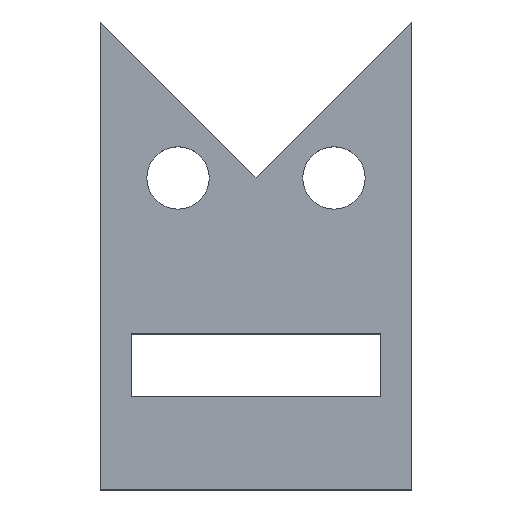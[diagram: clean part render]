
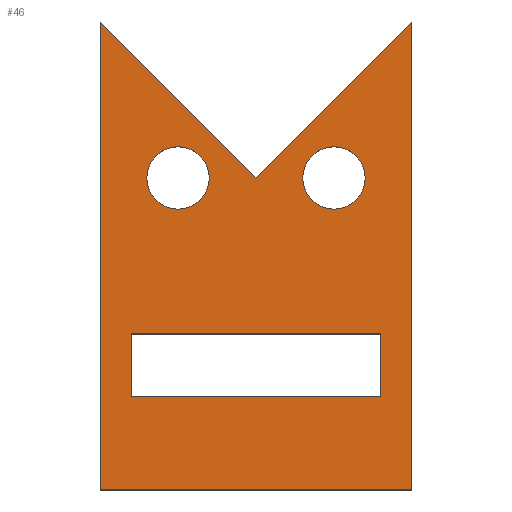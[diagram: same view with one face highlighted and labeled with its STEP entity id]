
A CAD part, top view. The second image highlights one B-rep face of the part: STEP entity #46.
In plain terms, the highlighted planar face has unit normal (0, 0, 1).
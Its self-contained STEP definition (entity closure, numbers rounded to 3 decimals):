
#29=FACE_BOUND('',#184,.T.);
#31=FACE_BOUND('',#188,.T.);
#33=FACE_BOUND('',#190,.T.);
#37=CIRCLE('',#78,1.);
#39=CIRCLE('',#80,1.);
#46=ADVANCED_FACE('',(#61,#29,#31,#33),#91,.T.);
#61=FACE_OUTER_BOUND('',#175,.T.);
#76=AXIS2_PLACEMENT_3D('',#386,#323,#324);
#78=AXIS2_PLACEMENT_3D('',#395,#327,#328);
#80=AXIS2_PLACEMENT_3D('',#401,#333,#334);
#91=PLANE('',#76);
#101=ORIENTED_EDGE('',*,*,#197,.T.);
#107=ORIENTED_EDGE('',*,*,#199,.T.);
#113=ORIENTED_EDGE('',*,*,#201,.T.);
#119=ORIENTED_EDGE('',*,*,#203,.T.);
#125=ORIENTED_EDGE('',*,*,#205,.T.);
#135=ORIENTED_EDGE('',*,*,#212,.F.);
#136=ORIENTED_EDGE('',*,*,#213,.F.);
#147=ORIENTED_EDGE('',*,*,#218,.F.);
#148=ORIENTED_EDGE('',*,*,#219,.F.);
#155=ORIENTED_EDGE('',*,*,#224,.T.);
#161=ORIENTED_EDGE('',*,*,#226,.T.);
#167=ORIENTED_EDGE('',*,*,#228,.T.);
#173=ORIENTED_EDGE('',*,*,#230,.T.);
#175=EDGE_LOOP('',(#101,#107,#113,#119,#125));
#184=EDGE_LOOP('',(#135,#136));
#188=EDGE_LOOP('',(#147,#148));
#190=EDGE_LOOP('',(#155,#161,#167,#173));
#197=EDGE_CURVE('',#359,#361,#236,.T.);
#199=EDGE_CURVE('',#361,#363,#238,.T.);
#201=EDGE_CURVE('',#363,#365,#240,.T.);
#203=EDGE_CURVE('',#365,#367,#242,.T.);
#205=EDGE_CURVE('',#367,#359,#244,.T.);
#212=EDGE_CURVE('',#369,#370,#37,.T.);
#213=EDGE_CURVE('',#370,#369,#37,.T.);
#218=EDGE_CURVE('',#373,#374,#39,.T.);
#219=EDGE_CURVE('',#374,#373,#39,.T.);
#224=EDGE_CURVE('',#377,#379,#255,.T.);
#226=EDGE_CURVE('',#379,#381,#257,.T.);
#228=EDGE_CURVE('',#381,#383,#259,.T.);
#230=EDGE_CURVE('',#383,#377,#261,.T.);
#236=LINE('',#385,#267);
#238=LINE('',#386,#269);
#240=LINE('',#387,#271);
#242=LINE('',#388,#273);
#244=LINE('',#389,#275);
#255=LINE('',#407,#286);
#257=LINE('',#408,#288);
#259=LINE('',#409,#290);
#261=LINE('',#410,#292);
#267=VECTOR('',#298,7.071);
#269=VECTOR('',#300,15.);
#271=VECTOR('',#302,10.);
#273=VECTOR('',#304,15.);
#275=VECTOR('',#306,7.071);
#286=VECTOR('',#339,8.);
#288=VECTOR('',#341,2.);
#290=VECTOR('',#343,8.);
#292=VECTOR('',#345,2.);
#298=DIRECTION('',(-0.707,0.707,0.));
#300=DIRECTION('',(0.,-1.,0.));
#302=DIRECTION('',(1.,0.,0.));
#304=DIRECTION('',(0.,1.,0.));
#306=DIRECTION('',(-0.707,-0.707,0.));
#323=DIRECTION('',(0.,0.,1.));
#324=DIRECTION('',(0.,-1.,0.));
#327=DIRECTION('',(0.,0.,1.));
#328=DIRECTION('',(1.,0.,0.));
#333=DIRECTION('',(0.,0.,1.));
#334=DIRECTION('',(1.,0.,0.));
#339=DIRECTION('',(-1.,0.,0.));
#341=DIRECTION('',(0.,-1.,0.));
#343=DIRECTION('',(1.,0.,0.));
#345=DIRECTION('',(0.,1.,0.));
#359=VERTEX_POINT('',#385);
#361=VERTEX_POINT('',#386);
#363=VERTEX_POINT('',#387);
#365=VERTEX_POINT('',#388);
#367=VERTEX_POINT('',#389);
#369=VERTEX_POINT('',#396);
#370=VERTEX_POINT('',#397);
#373=VERTEX_POINT('',#402);
#374=VERTEX_POINT('',#403);
#377=VERTEX_POINT('',#407);
#379=VERTEX_POINT('',#408);
#381=VERTEX_POINT('',#409);
#383=VERTEX_POINT('',#410);
#385=CARTESIAN_POINT('',(0.,5.,0.));
#386=CARTESIAN_POINT('',(-5.,10.,0.));
#387=CARTESIAN_POINT('',(-5.,-5.,0.));
#388=CARTESIAN_POINT('',(5.,-5.,0.));
#389=CARTESIAN_POINT('',(5.,10.,0.));
#395=CARTESIAN_POINT('',(2.5,5.,0.));
#396=CARTESIAN_POINT('',(1.5,5.,0.));
#397=CARTESIAN_POINT('',(3.5,5.,0.));
#401=CARTESIAN_POINT('',(-2.5,5.,0.));
#402=CARTESIAN_POINT('',(-3.5,5.,0.));
#403=CARTESIAN_POINT('',(-1.5,5.,0.));
#407=CARTESIAN_POINT('',(4.,0.,0.));
#408=CARTESIAN_POINT('',(-4.,0.,0.));
#409=CARTESIAN_POINT('',(-4.,-2.,0.));
#410=CARTESIAN_POINT('',(4.,-2.,0.));
